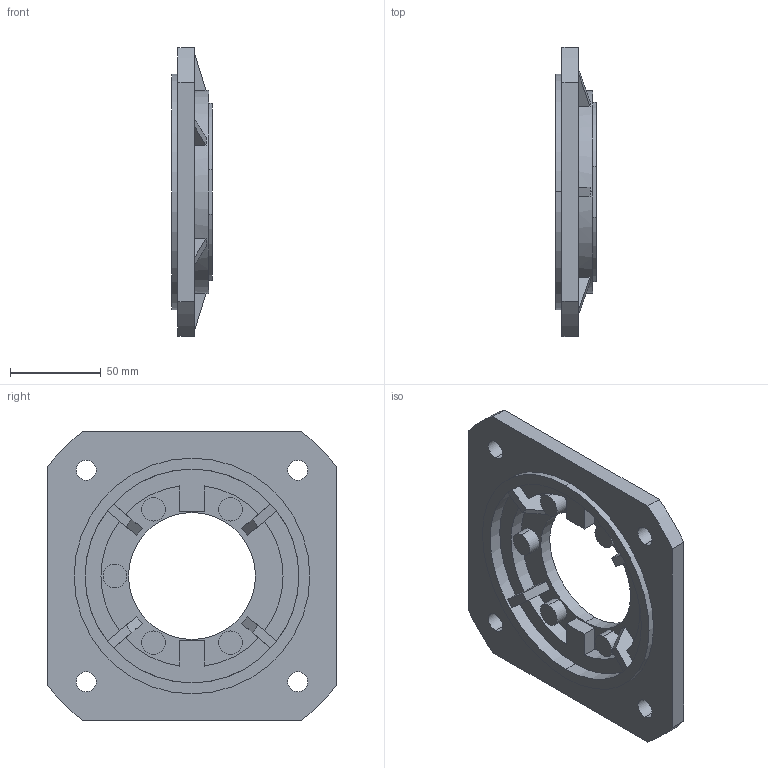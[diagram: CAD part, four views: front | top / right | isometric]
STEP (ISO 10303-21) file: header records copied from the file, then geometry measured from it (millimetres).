
FILE_DESCRIPTION(/* description */ (''),/* implementation_level */ '2;1');
FILE_NAME(/* name */ '1_',/* time_stamp */ '2025-10-31T14:12:36+01:00',/* author */ (''),/* organization */ (''),/* preprocessor_version */ 'ST-DEVELOPER v19.2',/* originating_system */ 'Rhino 8.23',/* authorisation */ '');
FILE_SCHEMA (('CONFIG_CONTROL_DESIGN'));
Length unit declared in the file: millimetre
Products named in the file (1): Document
Bounding box: 22.5 x 159.37 x 159.37 mm (x, y, z)
Volume: 201594.3 mm3; surface area: 63082.4 mm2
Topology: 1 solids, 1 shells, 103 faces, 288 edges, 196 vertices
Faces by surface type: plane 57, cylinder 40, bspline 6
Entity records: 4466 total; most frequent: CARTESIAN_POINT 1135, ORIENTED_EDGE 576, DIRECTION 317, EDGE_CURVE 288, AXIS2_PLACEMENT_3D 207, VERTEX_POINT 196, B_SPLINE_CURVE_WITH_KNOTS 176, EDGE_LOOP 122
